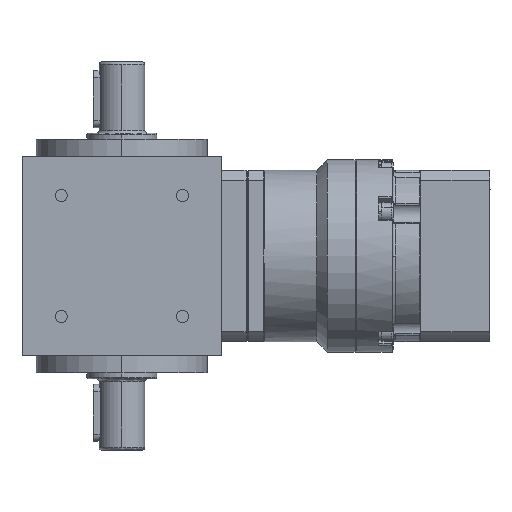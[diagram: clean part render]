
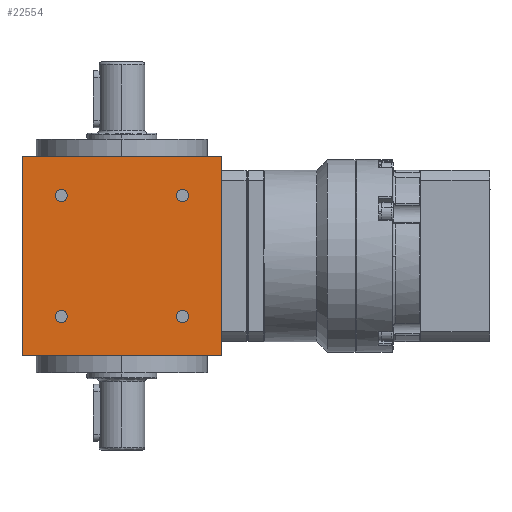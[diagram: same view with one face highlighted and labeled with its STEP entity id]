
A CAD part, left-side view. The second image highlights one B-rep face of the part: STEP entity #22554.
In plain terms, the highlighted planar face has unit normal (-1, 0, 0).
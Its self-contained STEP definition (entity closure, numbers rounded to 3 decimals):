
#71 = ORIENTED_EDGE ( 'NONE', *, *, #14017, .T. ) ;
#240 = CARTESIAN_POINT ( 'NONE',  ( -35., 19.113, 21.213 ) ) ;
#402 = CARTESIAN_POINT ( 'NONE',  ( -35., 35., -35. ) ) ;
#598 = FACE_BOUND ( 'NONE', #31354, .T. ) ;
#836 = DIRECTION ( 'NONE',  ( 1., 0., 0. ) ) ;
#896 = CARTESIAN_POINT ( 'NONE',  ( -35., -35., -35. ) ) ;
#1640 = CARTESIAN_POINT ( 'NONE',  ( -35., -19.113, 21.213 ) ) ;
#1750 = PLANE ( 'NONE',  #17771 ) ;
#2246 = EDGE_CURVE ( 'NONE', #30354, #5220, #5155, .T. ) ;
#2350 = VERTEX_POINT ( 'NONE', #30593 ) ;
#2643 = ORIENTED_EDGE ( 'NONE', *, *, #4916, .F. ) ;
#2665 = CIRCLE ( 'NONE', #16918, 2.1 ) ;
#3503 = AXIS2_PLACEMENT_3D ( 'NONE', #11725, #16847, #9073 ) ;
#4028 = ORIENTED_EDGE ( 'NONE', *, *, #24795, .T. ) ;
#4079 = AXIS2_PLACEMENT_3D ( 'NONE', #14141, #31507, #16294 ) ;
#4199 = VERTEX_POINT ( 'NONE', #1640 ) ;
#4916 = EDGE_CURVE ( 'NONE', #5207, #23449, #28343, .T. ) ;
#5071 = EDGE_CURVE ( 'NONE', #29255, #23324, #9128, .T. ) ;
#5155 = CIRCLE ( 'NONE', #30526, 2.1 ) ;
#5207 = VERTEX_POINT ( 'NONE', #9768 ) ;
#5220 = VERTEX_POINT ( 'NONE', #19850 ) ;
#5633 = CARTESIAN_POINT ( 'NONE',  ( -35., 21.213, 21.213 ) ) ;
#5800 = CARTESIAN_POINT ( 'NONE',  ( -35., 35., 35. ) ) ;
#5966 = DIRECTION ( 'NONE',  ( 1., 0., 0. ) ) ;
#6345 = VERTEX_POINT ( 'NONE', #9665 ) ;
#7568 = VECTOR ( 'NONE', #19210, 1000. ) ;
#8083 = DIRECTION ( 'NONE',  ( 1., 0., 0. ) ) ;
#8122 = CIRCLE ( 'NONE', #23458, 2.1 ) ;
#8141 = EDGE_LOOP ( 'NONE', ( #17949, #10725, #2643, #19152 ) ) ;
#8309 = VERTEX_POINT ( 'NONE', #16723 ) ;
#8647 = CARTESIAN_POINT ( 'NONE',  ( -35., 35., -35. ) ) ;
#8918 = ORIENTED_EDGE ( 'NONE', *, *, #19465, .T. ) ;
#9073 = DIRECTION ( 'NONE',  ( 0., -1., 0. ) ) ;
#9128 = LINE ( 'NONE', #8647, #7568 ) ;
#9238 = LINE ( 'NONE', #32072, #18254 ) ;
#9253 = CARTESIAN_POINT ( 'NONE',  ( -35., 19.113, -21.213 ) ) ;
#9665 = CARTESIAN_POINT ( 'NONE',  ( -35., -19.113, -21.213 ) ) ;
#9768 = CARTESIAN_POINT ( 'NONE',  ( -35., -35., 35. ) ) ;
#10342 = CIRCLE ( 'NONE', #3503, 2.1 ) ;
#10725 = ORIENTED_EDGE ( 'NONE', *, *, #20839, .T. ) ;
#11470 = VERTEX_POINT ( 'NONE', #18093 ) ;
#11725 = CARTESIAN_POINT ( 'NONE',  ( -35., -21.213, 21.213 ) ) ;
#13243 = DIRECTION ( 'NONE',  ( 0., -1., 0. ) ) ;
#13554 = CIRCLE ( 'NONE', #17718, 2.1 ) ;
#13720 = CIRCLE ( 'NONE', #24267, 2.1 ) ;
#13830 = CARTESIAN_POINT ( 'NONE',  ( -35., 35., -35. ) ) ;
#13895 = DIRECTION ( 'NONE',  ( 0., -1., 0. ) ) ;
#13911 = EDGE_CURVE ( 'NONE', #8309, #24813, #13554, .T. ) ;
#14017 = EDGE_CURVE ( 'NONE', #2350, #4199, #10342, .T. ) ;
#14141 = CARTESIAN_POINT ( 'NONE',  ( -35., -21.213, 21.213 ) ) ;
#14202 = EDGE_LOOP ( 'NONE', ( #24353, #8918 ) ) ;
#14382 = CARTESIAN_POINT ( 'NONE',  ( -35., -21.213, -21.213 ) ) ;
#14533 = DIRECTION ( 'NONE',  ( 0., -1., 0. ) ) ;
#15586 = EDGE_CURVE ( 'NONE', #23324, #5207, #16176, .T. ) ;
#15762 = DIRECTION ( 'NONE',  ( 0., 0., -1. ) ) ;
#16009 = CARTESIAN_POINT ( 'NONE',  ( -35., -21.213, -21.213 ) ) ;
#16176 = LINE ( 'NONE', #26101, #21044 ) ;
#16294 = DIRECTION ( 'NONE',  ( 0., -1., 0. ) ) ;
#16310 = ORIENTED_EDGE ( 'NONE', *, *, #16842, .T. ) ;
#16373 = CARTESIAN_POINT ( 'NONE',  ( -35., 21.213, 21.213 ) ) ;
#16558 = CIRCLE ( 'NONE', #26085, 2.1 ) ;
#16723 = CARTESIAN_POINT ( 'NONE',  ( -35., 23.313, -21.213 ) ) ;
#16842 = EDGE_CURVE ( 'NONE', #24813, #8309, #2665, .T. ) ;
#16847 = DIRECTION ( 'NONE',  ( 1., 0., 0. ) ) ;
#16918 = AXIS2_PLACEMENT_3D ( 'NONE', #23487, #18364, #18197 ) ;
#17718 = AXIS2_PLACEMENT_3D ( 'NONE', #31252, #8083, #13895 ) ;
#17771 = AXIS2_PLACEMENT_3D ( 'NONE', #13830, #29050, #31682 ) ;
#17949 = ORIENTED_EDGE ( 'NONE', *, *, #5071, .F. ) ;
#18093 = CARTESIAN_POINT ( 'NONE',  ( -35., -23.313, -21.213 ) ) ;
#18197 = DIRECTION ( 'NONE',  ( 0., -1., 0. ) ) ;
#18254 = VECTOR ( 'NONE', #14533, 1000. ) ;
#18364 = DIRECTION ( 'NONE',  ( 1., 0., 0. ) ) ;
#18774 = FACE_BOUND ( 'NONE', #23786, .T. ) ;
#19004 = ORIENTED_EDGE ( 'NONE', *, *, #25129, .T. ) ;
#19152 = ORIENTED_EDGE ( 'NONE', *, *, #15586, .F. ) ;
#19210 = DIRECTION ( 'NONE',  ( 0., 0., 1. ) ) ;
#19332 = DIRECTION ( 'NONE',  ( 0., -1., 0. ) ) ;
#19465 = EDGE_CURVE ( 'NONE', #5220, #30354, #16558, .T. ) ;
#19850 = CARTESIAN_POINT ( 'NONE',  ( -35., 23.313, 21.213 ) ) ;
#20839 = EDGE_CURVE ( 'NONE', #29255, #23449, #9238, .T. ) ;
#20955 = DIRECTION ( 'NONE',  ( 0., -1., 0. ) ) ;
#21044 = VECTOR ( 'NONE', #20955, 1000. ) ;
#21386 = EDGE_CURVE ( 'NONE', #4199, #2350, #29940, .T. ) ;
#21571 = FACE_BOUND ( 'NONE', #14202, .T. ) ;
#21633 = DIRECTION ( 'NONE',  ( 0., -1., 0. ) ) ;
#21725 = FACE_BOUND ( 'NONE', #23523, .T. ) ;
#21966 = DIRECTION ( 'NONE',  ( 1., 0., 0. ) ) ;
#22554 = ADVANCED_FACE ( 'NONE', ( #23063, #598, #21725, #18774, #21571 ), #1750, .T. ) ;
#22848 = VECTOR ( 'NONE', #15762, 1000. ) ;
#23063 = FACE_OUTER_BOUND ( 'NONE', #8141, .T. ) ;
#23324 = VERTEX_POINT ( 'NONE', #5800 ) ;
#23449 = VERTEX_POINT ( 'NONE', #23484 ) ;
#23458 = AXIS2_PLACEMENT_3D ( 'NONE', #16009, #24284, #29252 ) ;
#23484 = CARTESIAN_POINT ( 'NONE',  ( -35., -35., -35. ) ) ;
#23487 = CARTESIAN_POINT ( 'NONE',  ( -35., 21.213, -21.213 ) ) ;
#23523 = EDGE_LOOP ( 'NONE', ( #19004, #4028 ) ) ;
#23786 = EDGE_LOOP ( 'NONE', ( #71, #24669 ) ) ;
#24267 = AXIS2_PLACEMENT_3D ( 'NONE', #14382, #21966, #19332 ) ;
#24284 = DIRECTION ( 'NONE',  ( 1., 0., 0. ) ) ;
#24353 = ORIENTED_EDGE ( 'NONE', *, *, #2246, .T. ) ;
#24669 = ORIENTED_EDGE ( 'NONE', *, *, #21386, .T. ) ;
#24795 = EDGE_CURVE ( 'NONE', #6345, #11470, #13720, .T. ) ;
#24813 = VERTEX_POINT ( 'NONE', #9253 ) ;
#25129 = EDGE_CURVE ( 'NONE', #11470, #6345, #8122, .T. ) ;
#25185 = ORIENTED_EDGE ( 'NONE', *, *, #13911, .T. ) ;
#26085 = AXIS2_PLACEMENT_3D ( 'NONE', #16373, #836, #21633 ) ;
#26101 = CARTESIAN_POINT ( 'NONE',  ( -35., 0., 35. ) ) ;
#28343 = LINE ( 'NONE', #896, #22848 ) ;
#29050 = DIRECTION ( 'NONE',  ( -1., 0., 0. ) ) ;
#29252 = DIRECTION ( 'NONE',  ( 0., -1., 0. ) ) ;
#29255 = VERTEX_POINT ( 'NONE', #402 ) ;
#29940 = CIRCLE ( 'NONE', #4079, 2.1 ) ;
#30354 = VERTEX_POINT ( 'NONE', #240 ) ;
#30526 = AXIS2_PLACEMENT_3D ( 'NONE', #5633, #5966, #13243 ) ;
#30593 = CARTESIAN_POINT ( 'NONE',  ( -35., -23.313, 21.213 ) ) ;
#31252 = CARTESIAN_POINT ( 'NONE',  ( -35., 21.213, -21.213 ) ) ;
#31354 = EDGE_LOOP ( 'NONE', ( #16310, #25185 ) ) ;
#31507 = DIRECTION ( 'NONE',  ( 1., 0., 0. ) ) ;
#31682 = DIRECTION ( 'NONE',  ( 0., 0., 1. ) ) ;
#32072 = CARTESIAN_POINT ( 'NONE',  ( -35., 0., -35. ) ) ;
